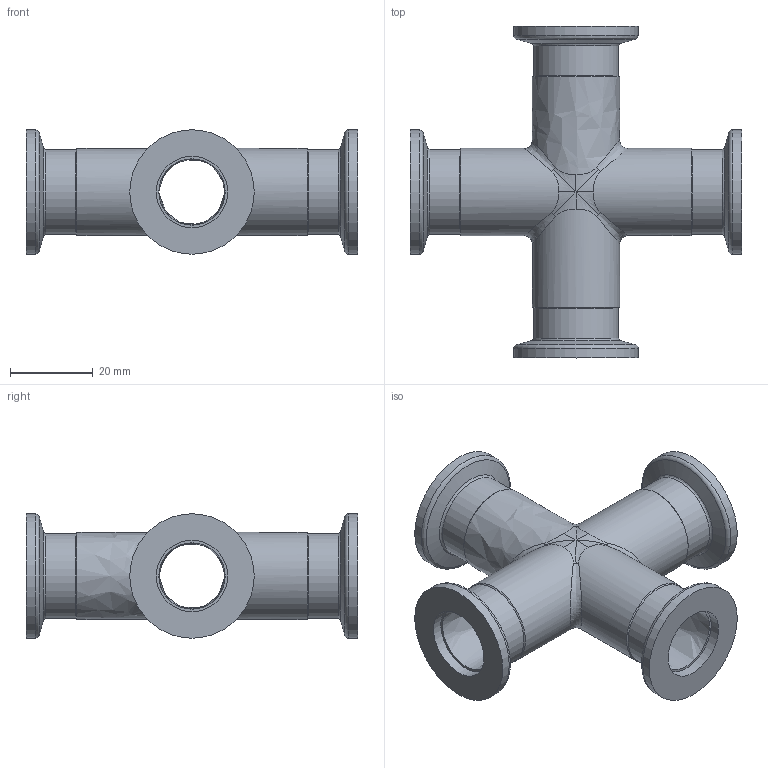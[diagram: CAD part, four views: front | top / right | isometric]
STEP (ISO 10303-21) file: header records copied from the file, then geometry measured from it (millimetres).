
FILE_DESCRIPTION((''),'2;1');
FILE_NAME('W:\M18471.stp','2006-08-30T12:36:57',('KAA'),(''),'Autodesk Inventor 10','Autodesk Inventor 10','');
FILE_SCHEMA(('CONFIG_CONTROL_DESIGN'));
Length unit declared in the file: millimetre
Products named in the file (1): M211-267
Bounding box: 80 x 80 x 30 mm (x, y, z)
Volume: 24143 mm3; surface area: 19250.1 mm2
Topology: 1 solids, 1 shells, 64 faces, 182 edges, 122 vertices
Faces by surface type: bspline 44, cylinder 10, cone 4, plane 4, torus 2
Full cylindrical faces by diameter (mm): 16 x1, 17.2 x2, 20.5 x2, 21 x3, 30 x2
Entity records: 5347 total; most frequent: CARTESIAN_POINT 3861, ORIENTED_EDGE 280, DIRECTION 258, EDGE_CURVE 140, AXIS2_PLACEMENT_3D 129, VERTEX_POINT 116, EDGE_LOOP 108, CIRCLE 96
